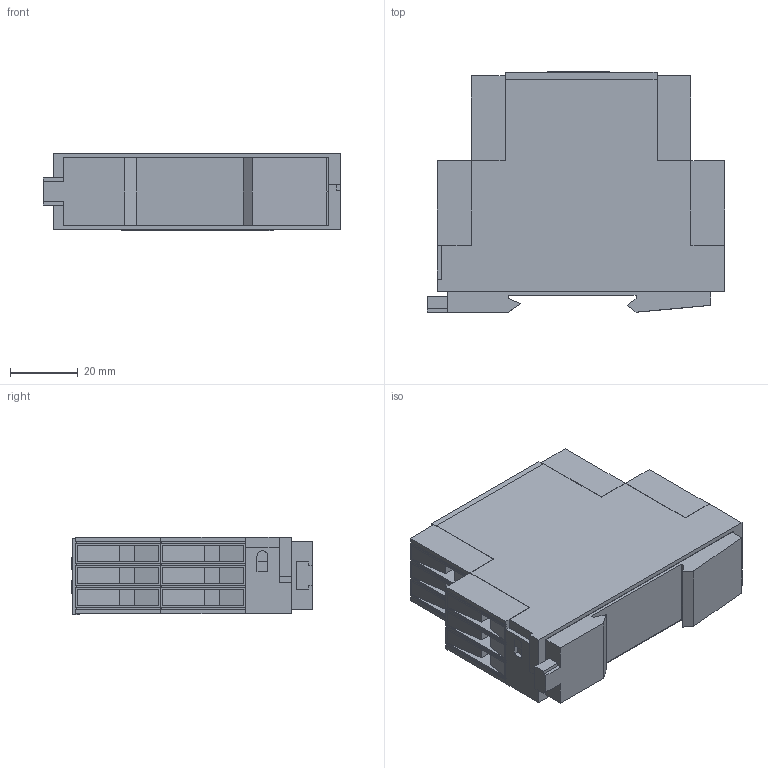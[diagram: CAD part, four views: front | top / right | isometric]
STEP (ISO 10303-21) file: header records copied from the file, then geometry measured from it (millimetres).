
FILE_DESCRIPTION (( 'STEP AP203' ), '1' );
FILE_NAME ('KR_GXN200.STEP', '2017-02-13T17:15:21', ( '' ), ( '' ), 'SwSTEP 2.0', 'SolidWorks 2013', '' );
FILE_SCHEMA (( 'CONFIG_CONTROL_DESIGN' ));
Length unit declared in the file: millimetre
Products named in the file (9): KR_GXN200; Svorka_2; Nap_gxn2; Svorka_3; zaklad_22_5; klip_din; Svorka_1L; Krab_1; viko
Assembly tree (10 placements, depth 3):
  KR_GXN200
    zaklad_22_5
      Krab_1  x2
      viko
      klip_din
    Svorka_2  x2
    Svorka_3
    Svorka_1L
    Nap_gxn2
Bounding box: 87.8 x 70.9 x 22.89 mm (x, y, z)
Volume: 42558.8 mm3; surface area: 39301.3 mm2
Topology: 19 solids, 19 shells, 695 faces, 1875 edges, 1250 vertices
Faces by surface type: plane 608, bspline 57, cylinder 30
Entity records: 21212 total; most frequent: CARTESIAN_POINT 6991, ORIENTED_EDGE 2886, DIRECTION 2411, EDGE_CURVE 1443, LINE 1239, VECTOR 1239, VERTEX_POINT 962, AXIS2_PLACEMENT_3D 586
